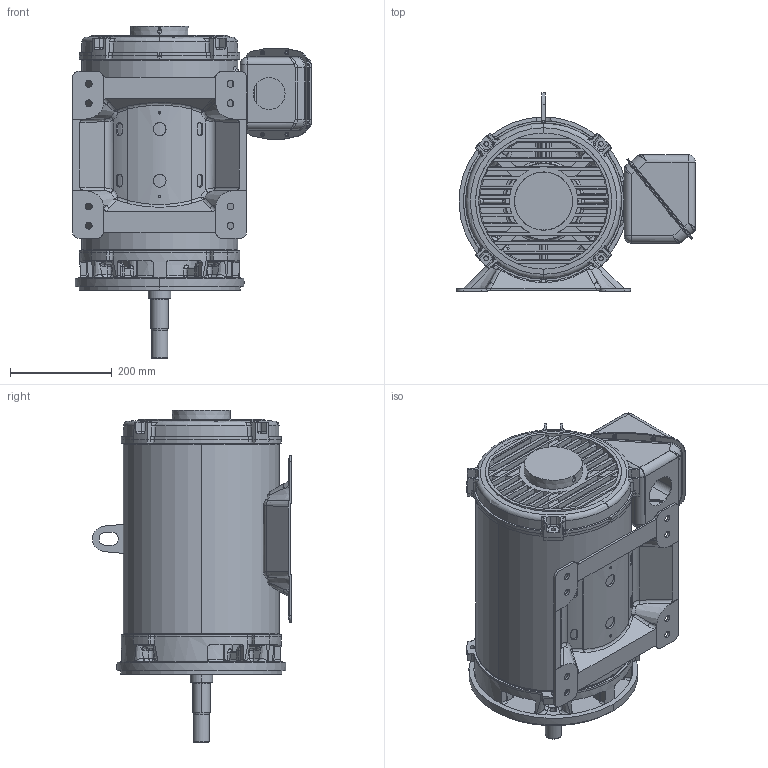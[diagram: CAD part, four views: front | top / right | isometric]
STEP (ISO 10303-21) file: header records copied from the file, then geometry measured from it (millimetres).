
FILE_DESCRIPTION((''),'2;1');
FILE_NAME('280_CCP_ASSY_ASM','2016-03-26T',('EMD2341'),('Nidec Motor Corporation'),'PRO/ENGINEER BY PARAMETRIC TECHNOLOGY CORPORATION, 2013150','PRO/ENGINEER BY PARAMETRIC TECHNOLOGY CORPORATION, 2013150','');
FILE_SCHEMA(('CONFIG_CONTROL_DESIGN'));
Length unit declared in the file: inch
Products named in the file (11): 280_D_FRAME; 0396164; 0931060-BKT; 0561420; 0929945; 0561183; 0391696; 0378793; 0378794; 0396168; 280_CCP_ASSY_ASM
Assembly tree (10 placements, depth 2):
  280_CCP_ASSY_ASM
    280_D_FRAME
    0396164
    0931060-BKT
    0561420
    0929945
    0561183
    0391696
    0378793
    0378794
    0396168
Bounding box: 470.55 x 391.65 x 654.11 mm (x, y, z)
Volume: 7599016.3 mm3; surface area: 2192106.2 mm2
Topology: 14 solids, 14 shells, 2170 faces, 5486 edges, 3311 vertices
Faces by surface type: plane 663, bspline 548, cylinder 489, cone 226, torus 170, sphere 70, extrusion 4
Entity records: 91090 total; most frequent: CARTESIAN_POINT 43085, ORIENTED_EDGE 10914, DIRECTION 8841, EDGE_CURVE 5457, AXIS2_PLACEMENT_3D 3542, VERTEX_POINT 3311, EDGE_LOOP 2342, FACE_OUTER_BOUND 2170
